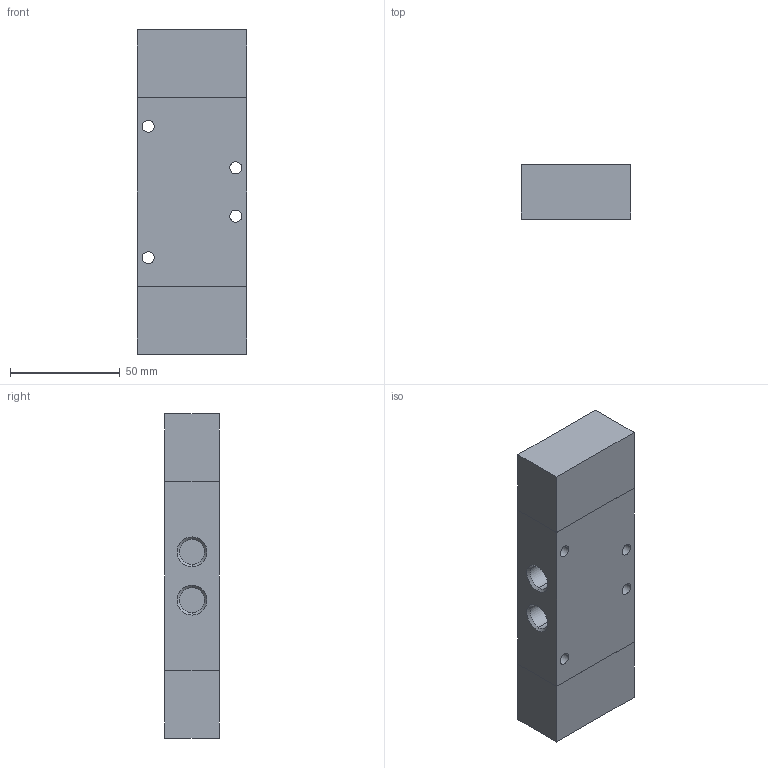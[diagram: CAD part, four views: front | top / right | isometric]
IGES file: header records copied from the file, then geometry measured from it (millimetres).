
Global section: file name: No Iges File Name specified; native system: AutoDesk Inventor R11.0; preprocessor: AutoDesk Inventor Iges Exporter R11.0; author: No Author specified; organization: No Organization specified; date: 20061219.092222; units: millimetre
Bounding box: 50 x 25 x 148 mm (x, y, z)
Volume: 175644.7 mm3; surface area: 28562.9 mm2
Topology: 1 solids, 1 shells, 59 faces, 130 edges, 82 vertices
Faces by surface type: bspline 35, revolution 12, plane 12
